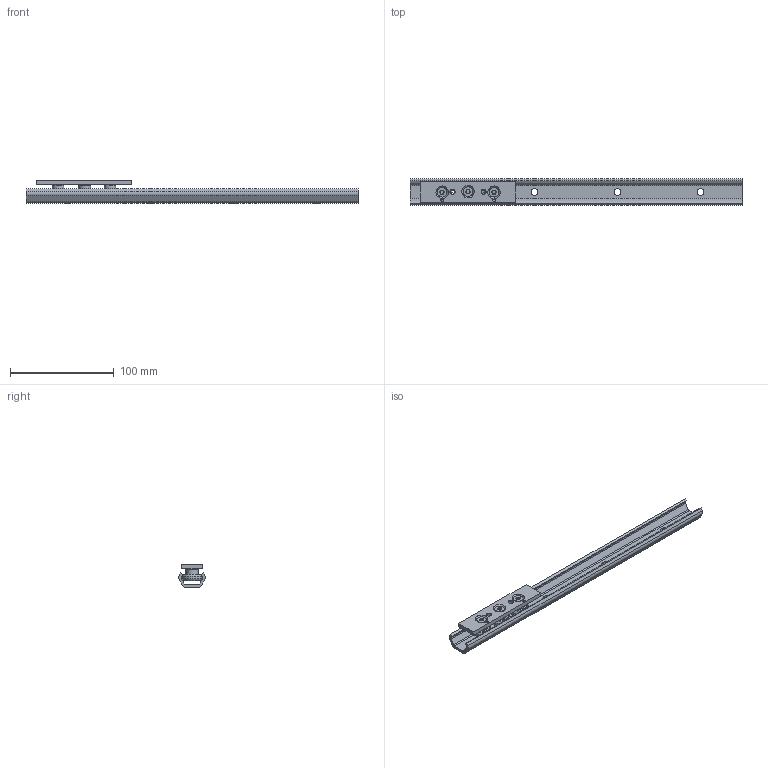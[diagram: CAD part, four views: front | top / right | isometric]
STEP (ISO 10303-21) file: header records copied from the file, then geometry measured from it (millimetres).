
FILE_DESCRIPTION( ( 'STEP AP214' ), '1' );
FILE_NAME( 'p:/temp/worker_258/temp/exporttempdir_3904_52_0oLbI/format_0/TEN26-0320-CEN26-92.stp', '2020-01-13T20:06:34', ( '' ), ( '' ), ' ', 'PARTsolutions', ' ' );
FILE_SCHEMA( ( 'AUTOMOTIVE_DESIGN { 1 0 10303 214 1 1 1 1 }' ) );
Length unit declared in the file: millimetre
Products named in the file (6): TEN26-0320-CEN26-92; _TEN 26-320; _CEN26-92_1; _RLN26(11.2_M5); _RLA26(11.2_M5); _LAN-26
Assembly tree (8 placements, depth 2):
  TEN26-0320-CEN26-92
    _TEN 26-320
    _CEN26-92_1
    _RLN26(11.2_M5)  x2
    _RLA26(11.2_M5)
    _LAN-26  x3
Bounding box: 320 x 26 x 22 mm (x, y, z)
Volume: 46768.9 mm3; surface area: 37876.1 mm2
Topology: 8 solids, 8 shells, 237 faces, 513 edges, 319 vertices
Faces by surface type: plane 131, cylinder 73, cone 24, bspline 9
Full cylindrical faces by diameter (mm): 2.5 x2, 4.134 x5, 4.5 x3, 5 x6, 6.5 x4, 9.3 x3, 11.2 x6, 11.6 x6, 15.7 x6, 16.7 x6
Entity records: 5426 total; most frequent: CARTESIAN_POINT 805, DIRECTION 736, ORIENTED_EDGE 550, AXIS2_PLACEMENT_3D 304, EDGE_CURVE 275, EDGE_LOOP 248, VERTEX_POINT 205, FACE_OUTER_BOUND 192
